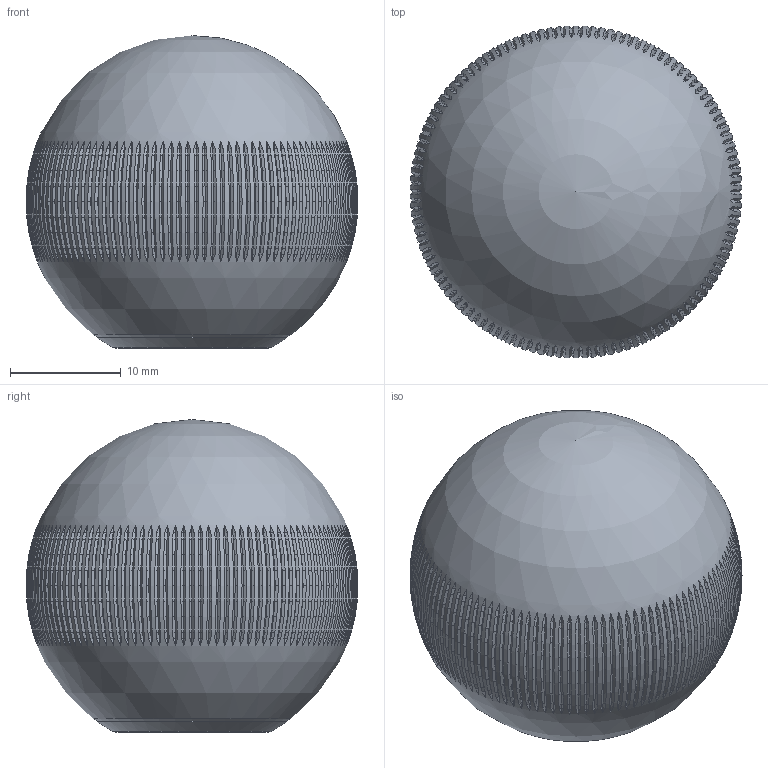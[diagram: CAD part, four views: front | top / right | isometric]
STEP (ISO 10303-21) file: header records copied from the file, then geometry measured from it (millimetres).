
FILE_DESCRIPTION(('Open CASCADE Model'),'2;1');
FILE_NAME('FL-BALL-knob-30','2026-10-19T21:25:07',('Author'),( 'Open CASCADE'),'Open CASCADE STEP processor 8.0','build123d', 'Unknown');
FILE_SCHEMA(('AUTOMOTIVE_DESIGN { 1 0 10303 214 1 1 1 1 }'));
Length unit declared in the file: millimetre
Products named in the file (2): FL-BALL-knob-30; brass_FL-BALL30__k
Assembly tree (1 placements, depth 2):
  FL-BALL-knob-30
    brass_FL-BALL30__k
Bounding box: 30 x 30 x 28.27 mm (x, y, z)
Volume: 13836.2 mm3; surface area: 3154.9 mm2
Topology: 1 solids, 1 shells, 2371 faces, 5684 edges, 3433 vertices
Faces by surface type: bspline 2361, plane 3, cylinder 3, sphere 2, cone 2
Full cylindrical faces by diameter (mm): 3.3 x1, 5.1 x1, 17.866 x1
Entity records: 197110 total; most frequent: CARTESIAN_POINT 106635, ORIENTED_EDGE 11366, PCURVE 11366, DEFINITIONAL_REPRESENTATION 11366, B_SPLINE_CURVE_WITH_KNOTS 9683, DIRECTION 7401, LINE 7351, VECTOR 7351
